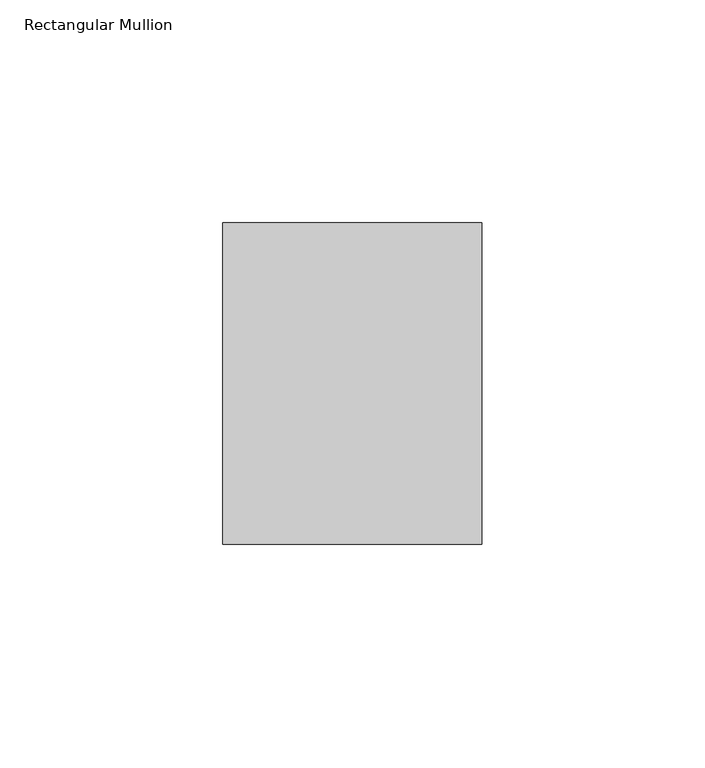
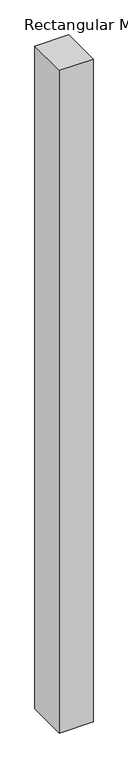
"""IFC4 building model written with IfcOpenShell, lengths in millimetres: member geometry, Rectangular Mullion : 22_IM_VNS_DET2_onder."""

import ifcopenshell
import ifcopenshell.guid

model = None  # the IFC model being written
_history = None  # IfcOwnerHistory: only IFC2X3 demands one
_inside = {}  # id of a spatial element -> (the spatial element, [elements in it])
_under = {}  # id of a project, library or spatial element -> (it, [spatial elements below it])
_declared = {}  # id of a project -> (the project, [libraries it declares])
_typed = {}  # id of a type object -> (the type object, [elements of that type])
_made_of = {}  # id of a material, layer set ... -> (it, [elements and type objects made of it])


def new_model(schema):
    """Start an empty IFC model of exactly this schema.

    Asked for "IFC4X3", IfcOpenShell would pick the latest addendum, in which some entities
    have other attributes; the version numbers below select the first issue.
    IFC2X3 requires an IfcOwnerHistory on every rooted entity: one is made here for all.
    """
    global model, _history
    if schema == "IFC4X3":
        model = ifcopenshell.file(schema_version=(4, 3, 0, 0))
    else:
        model = ifcopenshell.file(schema=schema)
    _inside.clear()
    _under.clear()
    _declared.clear()
    _typed.clear()
    _made_of.clear()
    _history = None
    if model.schema == "IFC2X3":
        org = make("IfcOrganization", Name="unknown")
        user = make(
            "IfcPersonAndOrganization",
            ThePerson=make("IfcPerson", FamilyName="unknown"),
            TheOrganization=org,
        )
        app = make(
            "IfcApplication",
            ApplicationDeveloper=org,
            Version="unknown",
            ApplicationFullName="unknown",
            ApplicationIdentifier="unknown",
        )
        _history = make(
            "IfcOwnerHistory",
            OwningUser=user,
            OwningApplication=app,
            ChangeAction="ADDED",
            CreationDate=0,
        )
    return model


def make(cls, **values):
    """One entity of the class cls with the attributes given. An attribute that is None is left unset."""
    return model.create_entity(
        cls, **{name: value for name, value in values.items() if value is not None}
    )


def rooted(cls, **values):
    """An entity with a GlobalId (a new one), such as an element, a storey or a relation."""
    return make(cls, GlobalId=ifcopenshell.guid.new(), OwnerHistory=_history, **values)


def si_unit(unit_type, name, prefix=None):
    """IfcSIUnit, for example si_unit("LENGTHUNIT", "METRE", prefix="MILLI")."""
    return make("IfcSIUnit", UnitType=unit_type, Prefix=prefix, Name=name)


def assignment(units):
    """IfcUnitAssignment: the units of a project."""
    return None if units is None else make("IfcUnitAssignment", Units=units)


def point(xyz):
    """IfcCartesianPoint."""
    return None if xyz is None else make("IfcCartesianPoint", Coordinates=xyz)


def direction(xyz):
    """IfcDirection."""
    return None if xyz is None else make("IfcDirection", DirectionRatios=xyz)


def frame(location, z_axis=None, x_axis=None):
    """IfcAxis2Placement3D, a coordinate frame: its origin and axes. An axis left out is left unset."""
    return make(
        "IfcAxis2Placement3D",
        Location=point(location),
        Axis=direction(z_axis),
        RefDirection=direction(x_axis),
    )


def origin():
    """The frame at (0, 0, 0) with its axes left unset."""
    return frame((0.0, 0.0, 0.0))


def place(relative_to, where):
    """IfcLocalPlacement: puts the frame where relative to a parent placement (None: the world)."""
    return make(
        "IfcLocalPlacement", PlacementRelTo=relative_to, RelativePlacement=where
    )


def context(
    kind, dimensions, precision=None, world=None, true_north=None, identifier=None
):
    """IfcGeometricRepresentationContext, for example the 3D "Model" context."""
    return make(
        "IfcGeometricRepresentationContext",
        ContextIdentifier=identifier,
        ContextType=kind,
        CoordinateSpaceDimension=dimensions,
        Precision=precision,
        WorldCoordinateSystem=world,
        TrueNorth=true_north,
    )


def project(units=None, contexts=None):
    """IfcProject with its units and contexts."""
    return rooted(
        "IfcProject",
        Name="project",
        RepresentationContexts=contexts,
        UnitsInContext=assignment(units),
    )


def spatial(cls, under=None, at=None, **own):
    """A site, building, storey or space (cls), placed at a placement, below another one or the project."""
    s = rooted(cls, ObjectPlacement=at, **own)
    if under is not None:
        _under.setdefault(under.id(), (under, []))[1].append(s)
    return s


def polyline(points):
    """IfcPolyline through the points."""
    return make("IfcPolyline", Points=[point(p) for p in points])


def outline(outer, holes=None, kind="AREA"):
    """IfcArbitraryClosedProfileDef: a profile drawn as a closed curve; with holes, ...WithVoids."""
    if holes is None:
        return make("IfcArbitraryClosedProfileDef", ProfileType=kind, OuterCurve=outer)
    return make(
        "IfcArbitraryProfileDefWithVoids",
        ProfileType=kind,
        OuterCurve=outer,
        InnerCurves=holes,
    )


def extrude(swept, where, along, depth):
    """IfcExtrudedAreaSolid: the profile swept, set in the frame where, extruded along a direction by depth."""
    return make(
        "IfcExtrudedAreaSolid",
        SweptArea=swept,
        Position=where,
        ExtrudedDirection=direction(along),
        Depth=depth,
    )


def shape(context_of_items, identifier, shape_type, items):
    """IfcShapeRepresentation: the items that make up one representation, for example the "Body"."""
    return make(
        "IfcShapeRepresentation",
        ContextOfItems=context_of_items,
        RepresentationIdentifier=identifier,
        RepresentationType=shape_type,
        Items=items,
    )


def source(mapping_origin, context_of_items, identifier, shape_type, items):
    """IfcRepresentationMap: a shape defined once, which mapped items show again and again."""
    return make(
        "IfcRepresentationMap",
        MappingOrigin=mapping_origin,
        MappedRepresentation=shape(context_of_items, identifier, shape_type, items),
    )


def transform(
    local_origin,
    x_axis=None,
    y_axis=None,
    z_axis=None,
    scale=None,
    scale2=None,
    scale3=None,
    uniform=True,
):
    """IfcCartesianTransformationOperator3D, or its non-uniform kind. x_axis, y_axis, z_axis: its Axis1, 2, 3."""
    if uniform:
        return make(
            "IfcCartesianTransformationOperator3D",
            Axis1=direction(x_axis),
            Axis2=direction(y_axis),
            LocalOrigin=point(local_origin),
            Scale=scale,
            Axis3=direction(z_axis),
        )
    return make(
        "IfcCartesianTransformationOperator3DnonUniform",
        Axis1=direction(x_axis),
        Axis2=direction(y_axis),
        LocalOrigin=point(local_origin),
        Scale=scale,
        Axis3=direction(z_axis),
        Scale2=scale2,
        Scale3=scale3,
    )


def mapped(mapping_source, mapping_target):
    """IfcMappedItem: shows the shape of a source again, moved by a transform."""
    return make(
        "IfcMappedItem", MappingSource=mapping_source, MappingTarget=mapping_target
    )


def made_of(thing, what):
    """Note that an element or type object is made of a material, layer set ...; save() writes the relation."""
    if what is not None:
        _made_of.setdefault(what.id(), (what, []))[1].append(thing)
    return thing


def element(
    cls,
    number,
    at=None,
    inside=None,
    cuts=None,
    type_object=None,
    material=None,
    context=None,
    identifier="Body",
    shape_type=None,
    held_by="IfcProductDefinitionShape",
    body=None,
    shapes=None,
    **own,
):
    """One element of the class cls, such as IfcWall. Its Tag is "e" and its number.

    at: its placement. inside: the storey or other place that contains it. cuts: it is an
    opening in that element (IfcRelVoidsElement). A single representation is given by context,
    identifier, shape_type and body (its items); several are given by shapes. held_by: the class
    of the entity that holds the representations. save() writes the other relations.
    """
    e = rooted(cls, Tag="e%d" % number, ObjectPlacement=at, **own)
    if body is not None:
        shapes = [shape(context, identifier, shape_type, body)]
    if shapes is not None:
        e.Representation = make(held_by, Representations=shapes)
    if inside is not None:
        _inside.setdefault(inside.id(), (inside, []))[1].append(e)
    if cuts is not None:
        rooted(
            "IfcRelVoidsElement", RelatingBuildingElement=cuts, RelatedOpeningElement=e
        )
    if type_object is not None:
        _typed.setdefault(type_object.id(), (type_object, []))[1].append(e)
    return made_of(e, material)


def aggregate(whole, parts):
    """IfcRelAggregates: a whole, such as a stair, and the parts it consists of."""
    return rooted("IfcRelAggregates", RelatingObject=whole, RelatedObjects=parts)


def save(model, path):
    """Write the relations noted so far, then the file.

    IfcRelAggregates (storeys below a building ...), IfcRelContainedInSpatialStructure (elements
    in a storey), IfcRelDefinesByType, IfcRelAssociatesMaterial and IfcRelDeclares: one each for
    every whole, place, type object, material and project.
    """
    for whole, parts in _under.values():
        aggregate(whole, parts)
    for where, things in _inside.values():
        rooted(
            "IfcRelContainedInSpatialStructure",
            RelatedElements=things,
            RelatingStructure=where,
        )
    for kind, things in _typed.values():
        rooted("IfcRelDefinesByType", RelatedObjects=things, RelatingType=kind)
    for what, things in _made_of.values():
        rooted("IfcRelAssociatesMaterial", RelatedObjects=things, RelatingMaterial=what)
    for by, libraries in _declared.values():
        rooted("IfcRelDeclares", RelatingContext=by, RelatedDefinitions=libraries)
    model.write(path)


def rectangular_mullion_b505394f(model_context):
    return source(origin(), model_context, "Body", "SweptSolid", [
        extrude(outline(polyline([(0.0, 36.0), (0.0, -36.0), (-58.0, -36.0), (-58.0, 36.0), (0.0, 36.0)])), frame((0.0, 0.0, -1200.0), z_axis=(0.0, 0.0, 1.0), x_axis=(1.0, 0.0, 0.0)), (0.0, 0.0, 1.0), 1200.0),
    ])


if __name__ == "__main__":
    model = new_model("IFC4")
    model_context = context("Model", 3, world=origin())
    ifc_project = project(units=[si_unit("LENGTHUNIT", "METRE", prefix="MILLI")], contexts=[model_context])
    site = spatial("IfcSite", under=ifc_project)
    building = spatial("IfcBuilding", under=site)
    placement = place(None, origin())
    rectangular_mullion_shape = rectangular_mullion_b505394f(model_context)
    element("IfcMember", 1, ObjectType="Rectangular Mullion : 22_IM_VNS_DET2_onder", at=placement, inside=building, context=model_context, shape_type="MappedRepresentation", body=[
        mapped(rectangular_mullion_shape, transform((0.0, 0.0, 0.0), x_axis=(1.0, 0.0, 0.0), y_axis=(0.0, 1.0, 0.0), z_axis=(0.0, 0.0, 1.0))),
    ])
    save(model, "model.ifc")
